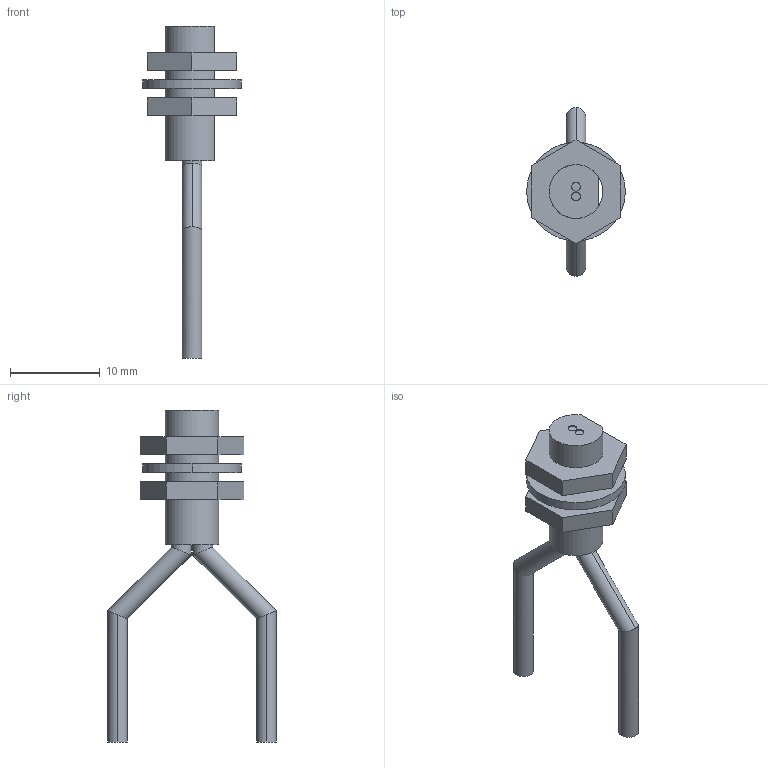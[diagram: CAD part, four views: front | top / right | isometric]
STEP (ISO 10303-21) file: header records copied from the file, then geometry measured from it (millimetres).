
FILE_DESCRIPTION (( 'STEP AP203' ), '1' );
FILE_NAME ('FD-W8.STEP', '2005-09-08T14:57:32', ( ' ' ), ( ' ' ), 'SwSTEP 2.0', 'SolidWorks 2004073', '' );
FILE_SCHEMA (( 'CONFIG_CONTROL_DESIGN' ));
Length unit declared in the file: millimetre
Products named in the file (1): FD-W8
Bounding box: 11 x 18.8 x 37 mm (x, y, z)
Volume: 896.8 mm3; surface area: 1313.7 mm2
Topology: 4 solids, 4 shells, 50 faces, 110 edges, 72 vertices
Faces by surface type: plane 25, cylinder 25
Entity records: 1459 total; most frequent: CARTESIAN_POINT 269, DIRECTION 234, ORIENTED_EDGE 220, EDGE_CURVE 110, AXIS2_PLACEMENT_3D 85, VERTEX_POINT 72, LINE 64, VECTOR 64
